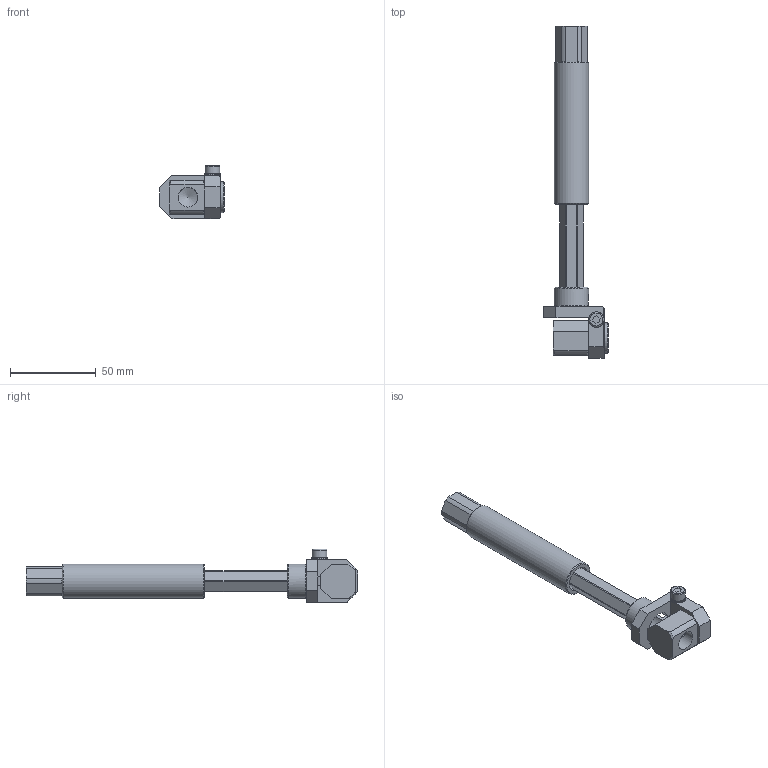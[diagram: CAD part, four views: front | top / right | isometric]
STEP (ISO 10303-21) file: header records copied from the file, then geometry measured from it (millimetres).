
FILE_DESCRIPTION(('STEP AP214'),'1');
FILE_NAME('CA.SSN.20501418.stp','2016-08-11T13:19:37',(' '),(' '),'Spatial InterOp 3D',' ',' ');
FILE_SCHEMA(('automotive_design'));
Length unit declared in the file: millimetre
Products named in the file (11): VSN.2050.2.1; VSN.2050.3; VSN.2050.1.2; VSN.2025.1.1; SSN.20251418.1; GGB.20.14.18; R.5.SCH; V-tcei M  5 x 25; M.12X81.5; VSN.20.1
Assembly tree (10 placements, depth 2):
  (unnamed)
    VSN.2050.2.1
    VSN.2050.3
    VSN.2050.1.2
    VSN.2025.1.1
    SSN.20251418.1
    GGB.20.14.18
    R.5.SCH
    V-tcei M  5 x 25
    M.12X81.5
    VSN.20.1
Bounding box: 37.3 x 193 x 31.1 mm (x, y, z)
Volume: 44332.2 mm3; surface area: 32611.4 mm2
Topology: 9 solids, 10 shells, 361 faces, 994 edges, 654 vertices
Faces by surface type: plane 266, cylinder 52, cone 33, torus 9, bspline 1
Full cylindrical faces by diameter (mm): 4 x1, 4.2 x1, 5 x1, 5.2 x1, 5.3 x1, 6 x3, 7 x1, 7.5 x1, 8.5 x1, 8.566 x5, 9 x1, 9.728 x3, 10 x2, 10.1 x1, 11.445 x2, 14 x1, 16 x2, 16.02 x1, 17.95 x2, 20 x2
Entity records: 20284 total; most frequent: CARTESIAN_POINT 8123, DIRECTION 1918, ORIENTED_EDGE 1828, EDGE_CURVE 914, AXIS2_PLACEMENT_3D 688, VERTEX_POINT 634, LINE 542, VECTOR 542
